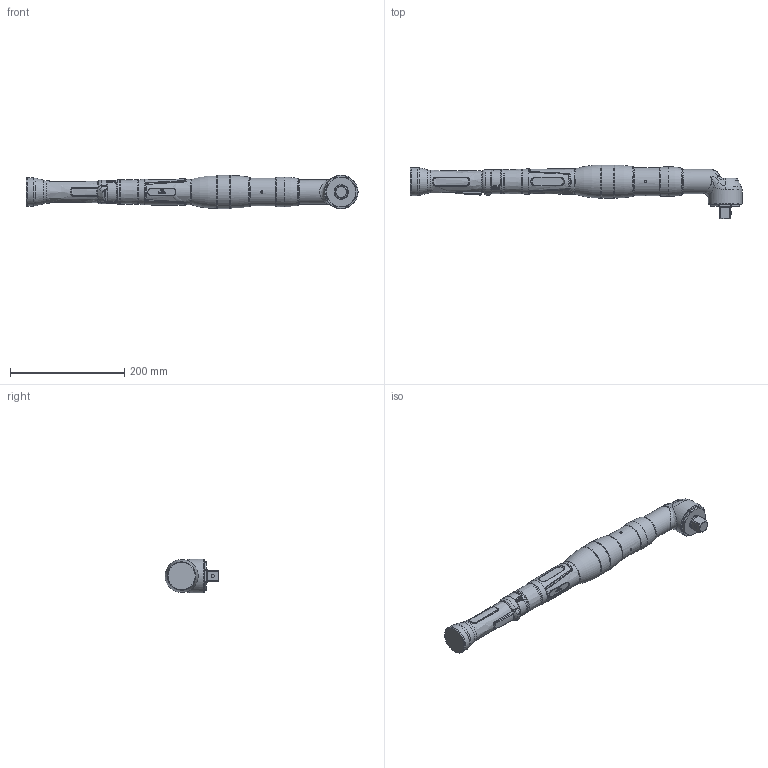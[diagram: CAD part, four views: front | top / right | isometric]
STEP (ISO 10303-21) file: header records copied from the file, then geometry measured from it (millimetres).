
FILE_DESCRIPTION (( 'STEP AP214' ), '1' );
FILE_NAME ('70058344_HSX2200WV34.STEP', '2016-11-17T06:58:47', ( 'admin' ), ( '' ), 'SwSTEP 2.0', 'SolidWorks 2014', '' );
FILE_SCHEMA (( 'AUTOMOTIVE_DESIGN' ));
Length unit declared in the file: millimetre
Products named in the file (1): 70058344_HSX2200WV34
Bounding box: 581.46 x 94.5 x 59 mm (x, y, z)
Volume: 973813.9 mm3; surface area: 116079.5 mm2
Topology: 4 solids, 4 shells, 1135 faces, 2809 edges, 1686 vertices
Faces by surface type: bspline 436, cylinder 250, plane 243, torus 142, cone 34, sphere 30
Full cylindrical faces by diameter (mm): 1.7 x2, 4 x5, 4.7 x1, 25 x1, 38 x1, 39 x1, 39.5 x1, 40.5 x1, 42 x2, 42.5 x1, 43.3 x1, 43.5 x1, 49 x1, 49.5 x1, 58 x3, 59 x2
Entity records: 51965 total; most frequent: CARTESIAN_POINT 26735, ORIENTED_EDGE 5326, DIRECTION 3875, EDGE_CURVE 2663, VERTEX_POINT 1648, AXIS2_PLACEMENT_3D 1556, EDGE_LOOP 1263, FACE_OUTER_BOUND 1198
